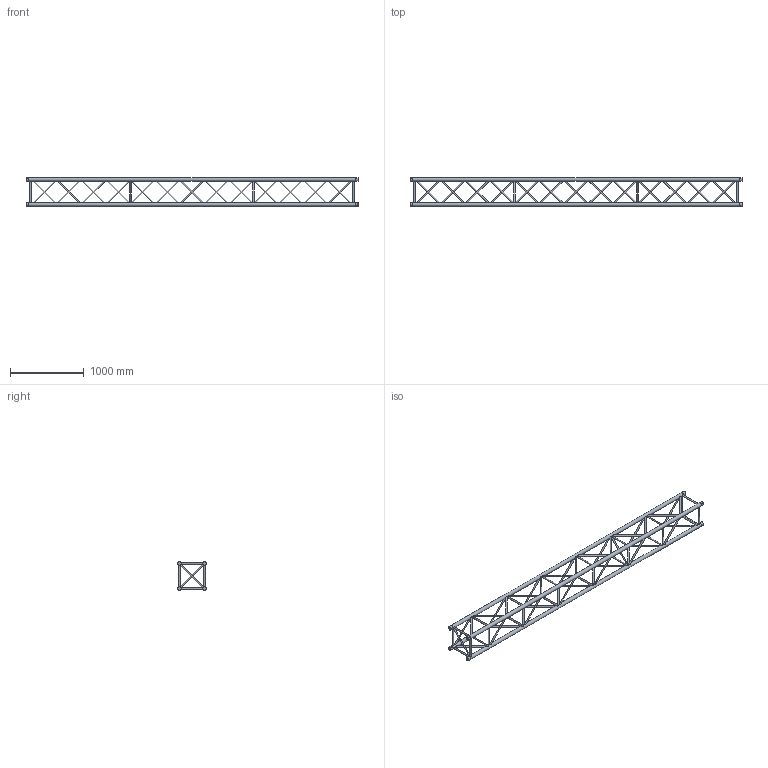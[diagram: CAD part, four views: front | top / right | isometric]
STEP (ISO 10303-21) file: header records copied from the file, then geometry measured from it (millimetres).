
FILE_DESCRIPTION(/* description */ (''),/* implementation_level */ '2;1');
FILE_NAME(/* name */ 'M:\Symbolen\STP\40-er truss\111080202.stp',/* time_stamp */ '2015-02-26T17:06:10+01:00',/* author */ ('Stephan'),/* organization */ (''),/* preprocessor_version */ 'ST-DEVELOPER v15.6',/* originating_system */ 'Autodesk Inventor 2015',/* authorisation */ '');
FILE_SCHEMA (('AUTOMOTIVE_DESIGN { 1 0 10303 214 3 1 1 }'));
Length unit declared in the file: millimetre
Products named in the file (1): 160023963
Bounding box: 4500 x 389.98 x 389.98 mm (x, y, z)
Volume: 43170051 mm3; surface area: 4549580.1 mm2
Topology: 60 solids, 68 shells, 460 faces, 852 edges, 528 vertices
Faces by surface type: plane 264, cylinder 188, cone 8
Full cylindrical faces by diameter (mm): 10 x8, 20 x64, 49.5 x8, 51 x4
Entity records: 11911 total; most frequent: CARTESIAN_POINT 3221, ORIENTED_EDGE 1520, DIRECTION 1498, EDGE_CURVE 744, AXIS2_PLACEMENT_3D 637, EDGE_LOOP 592, VERTEX_POINT 520, STYLED_ITEM 361
